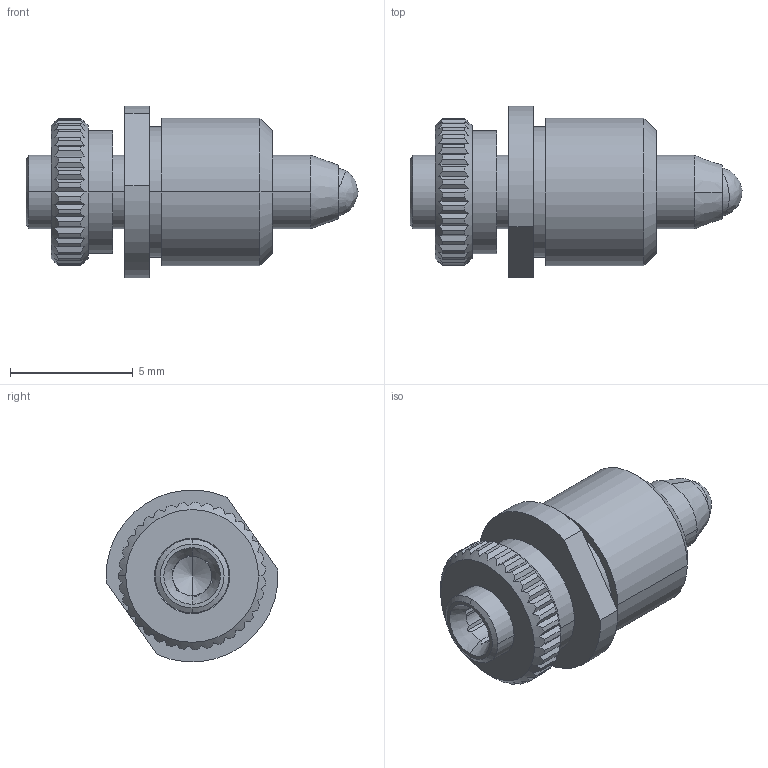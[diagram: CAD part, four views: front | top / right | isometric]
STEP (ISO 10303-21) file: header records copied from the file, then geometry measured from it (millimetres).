
FILE_DESCRIPTION (( 'STEP AP203' ), '1' );
FILE_NAME ('9SH137MF.STEP', '2007-11-15T08:58:20', ( 'STANDA' ), ( '' ), 'SwSTEP 2.0', 'SolidWorks 2003240', '' );
FILE_SCHEMA (( 'CONFIG_CONTROL_DESIGN' ));
Length unit declared in the file: millimetre
Products named in the file (1): 9SH137MF
Bounding box: 13.51 x 6.99 x 6.98 mm (x, y, z)
Volume: 245.4 mm3; surface area: 385.2 mm2
Topology: 1 solids, 1 shells, 189 faces, 523 edges, 342 vertices
Faces by surface type: plane 112, cylinder 55, cone 20, bspline 2
Entity records: 6308 total; most frequent: CARTESIAN_POINT 1581, ORIENTED_EDGE 1038, DIRECTION 901, EDGE_CURVE 519, AXIS2_PLACEMENT_3D 348, VERTEX_POINT 342, VECTOR 205, LINE 205
